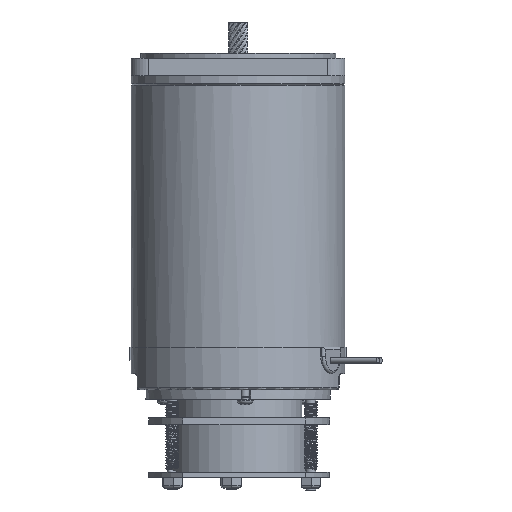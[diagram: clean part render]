
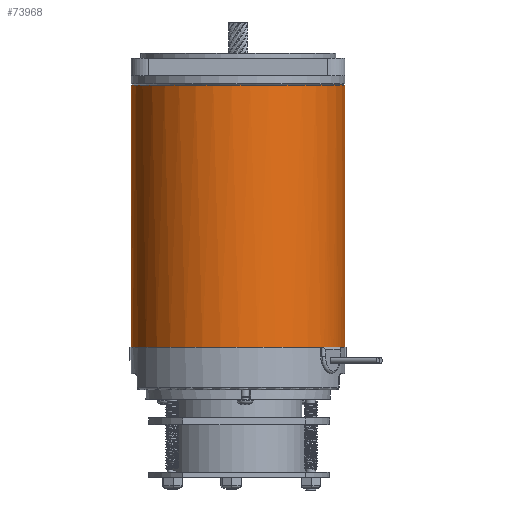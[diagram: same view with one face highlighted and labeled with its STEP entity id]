
A CAD part, front view. The second image highlights one B-rep face of the part: STEP entity #73968.
In plain terms, the highlighted cylindrical face has radius 40 mm (diameter 80 mm), a full revolution.
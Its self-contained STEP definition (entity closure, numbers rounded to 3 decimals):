
#47393=CARTESIAN_POINT('',(30.931,-25.363,-101.5));
#47394=VERTEX_POINT('',#47393);
#47431=CARTESIAN_POINT('',(37.431,-14.105,-101.5));
#47432=VERTEX_POINT('',#47431);
#47433=CARTESIAN_POINT('',(34.641,-20.,-101.5));
#47434=VERTEX_POINT('',#47433);
#47435=CARTESIAN_POINT('',(0.,0.,-101.5));
#47436=DIRECTION('',(0.,0.,-1.0));
#47437=DIRECTION('',(-0.998,0.059,0.));
#47438=AXIS2_PLACEMENT_3D('',#47435,#47436,#47437);
#47439=CIRCLE('',#47438,40.0);
#47440=EDGE_CURVE('',#47432,#47434,#47439,.T.);
#47726=CARTESIAN_POINT('',(0.,0.,-101.5));
#47727=DIRECTION('',(0.,0.,-1.0));
#47728=DIRECTION('',(-0.998,0.059,0.));
#47729=AXIS2_PLACEMENT_3D('',#47726,#47727,#47728);
#47730=CIRCLE('',#47729,40.0);
#47731=EDGE_CURVE('',#47434,#47394,#47730,.T.);
#73881=CARTESIAN_POINT('',(39.929,-2.379,-3.5));
#73882=VERTEX_POINT('',#73881);
#73883=CARTESIAN_POINT('',(0.,0.,-3.5));
#73884=DIRECTION('',(0.,0.,1.0));
#73885=DIRECTION('',(-0.998,0.059,0.));
#73886=AXIS2_PLACEMENT_3D('',#73883,#73884,#73885);
#73887=CIRCLE('',#73886,40.0);
#73888=EDGE_CURVE('',#73882,#73882,#73887,.T.);
#73904=CARTESIAN_POINT('',(0.,0.,-101.5));
#73905=DIRECTION('',(0.,0.,1.0));
#73906=DIRECTION('',(-0.998,0.059,0.));
#73907=AXIS2_PLACEMENT_3D('',#73904,#73905,#73906);
#73908=CYLINDRICAL_SURFACE('',#73907,40.0);
#73909=ORIENTED_EDGE('',*,*,#73888,.F.);
#73910=EDGE_LOOP('',(#73909));
#73911=FACE_OUTER_BOUND('',#73910,.T.);
#73912=CARTESIAN_POINT('',(39.929,-2.379,-101.5));
#73913=VERTEX_POINT('',#73912);
#73914=CARTESIAN_POINT('',(0.0,0.0,-101.5));
#73915=DIRECTION('',(0.0,0.0,1.0));
#73916=DIRECTION('',(0.0,-1.0,0.0));
#73917=AXIS2_PLACEMENT_3D('',#73914,#73915,#73916);
#73918=CIRCLE('',#73917,40.);
#73919=EDGE_CURVE('',#47432,#73913,#73918,.T.);
#73920=ORIENTED_EDGE('',*,*,#73919,.T.);
#73921=CARTESIAN_POINT('',(39.999,-0.25,-101.5));
#73922=VERTEX_POINT('',#73921);
#73923=CARTESIAN_POINT('',(0.0,0.0,-101.5));
#73924=DIRECTION('',(0.0,0.0,1.0));
#73925=DIRECTION('',(0.0,-1.0,0.0));
#73926=AXIS2_PLACEMENT_3D('',#73923,#73924,#73925);
#73927=CIRCLE('',#73926,40.);
#73928=EDGE_CURVE('',#73913,#73922,#73927,.T.);
#73929=ORIENTED_EDGE('',*,*,#73928,.T.);
#73930=CARTESIAN_POINT('',(39.999,0.25,-101.5));
#73931=VERTEX_POINT('',#73930);
#73932=CARTESIAN_POINT('',(0.,0.,-101.5));
#73933=DIRECTION('',(0.,0.,-1.0));
#73934=DIRECTION('',(-0.998,0.059,0.));
#73935=AXIS2_PLACEMENT_3D('',#73932,#73933,#73934);
#73936=CIRCLE('',#73935,40.0);
#73937=EDGE_CURVE('',#73931,#73922,#73936,.T.);
#73938=ORIENTED_EDGE('',*,*,#73937,.F.);
#73939=CARTESIAN_POINT('',(-39.999,0.25,-101.5));
#73940=VERTEX_POINT('',#73939);
#73941=CARTESIAN_POINT('',(0.0,0.0,-101.5));
#73942=DIRECTION('',(0.0,0.0,1.0));
#73943=DIRECTION('',(0.0,-1.0,0.0));
#73944=AXIS2_PLACEMENT_3D('',#73941,#73942,#73943);
#73945=CIRCLE('',#73944,40.);
#73946=EDGE_CURVE('',#73931,#73940,#73945,.T.);
#73947=ORIENTED_EDGE('',*,*,#73946,.T.);
#73948=CARTESIAN_POINT('',(-39.999,-0.25,-101.5));
#73949=VERTEX_POINT('',#73948);
#73950=CARTESIAN_POINT('',(0.,0.,-101.5));
#73951=DIRECTION('',(0.,0.,-1.0));
#73952=DIRECTION('',(-0.998,0.059,0.));
#73953=AXIS2_PLACEMENT_3D('',#73950,#73951,#73952);
#73954=CIRCLE('',#73953,40.0);
#73955=EDGE_CURVE('',#73949,#73940,#73954,.T.);
#73956=ORIENTED_EDGE('',*,*,#73955,.F.);
#73957=CARTESIAN_POINT('',(0.0,0.0,-101.5));
#73958=DIRECTION('',(0.0,0.0,1.0));
#73959=DIRECTION('',(0.0,-1.0,0.0));
#73960=AXIS2_PLACEMENT_3D('',#73957,#73958,#73959);
#73961=CIRCLE('',#73960,40.);
#73962=EDGE_CURVE('',#73949,#47394,#73961,.T.);
#73963=ORIENTED_EDGE('',*,*,#73962,.T.);
#73964=ORIENTED_EDGE('',*,*,#47731,.F.);
#73965=ORIENTED_EDGE('',*,*,#47440,.F.);
#73966=EDGE_LOOP('',(#73920,#73929,#73938,#73947,#73956,#73963,#73964,#73965));
#73967=FACE_BOUND('',#73966,.T.);
#73968=ADVANCED_FACE('',(#73911,#73967),#73908,.T.);
